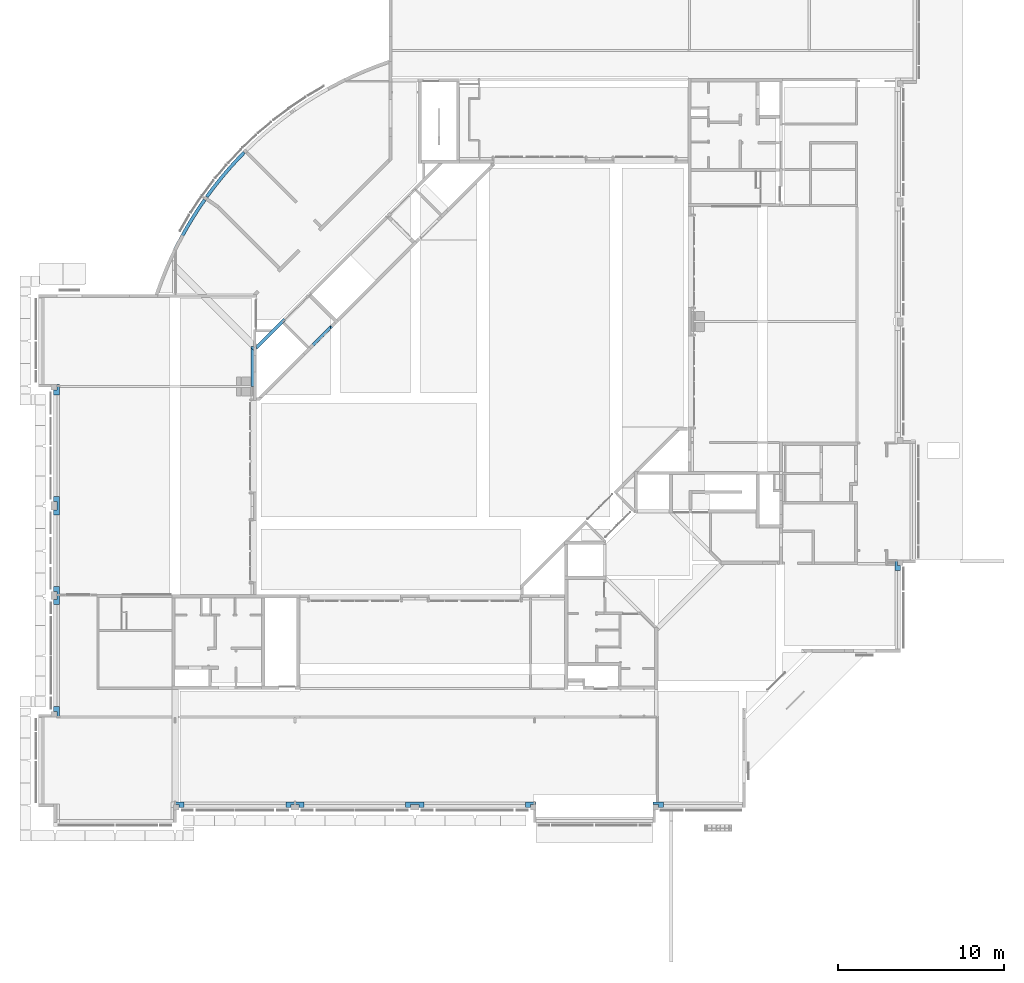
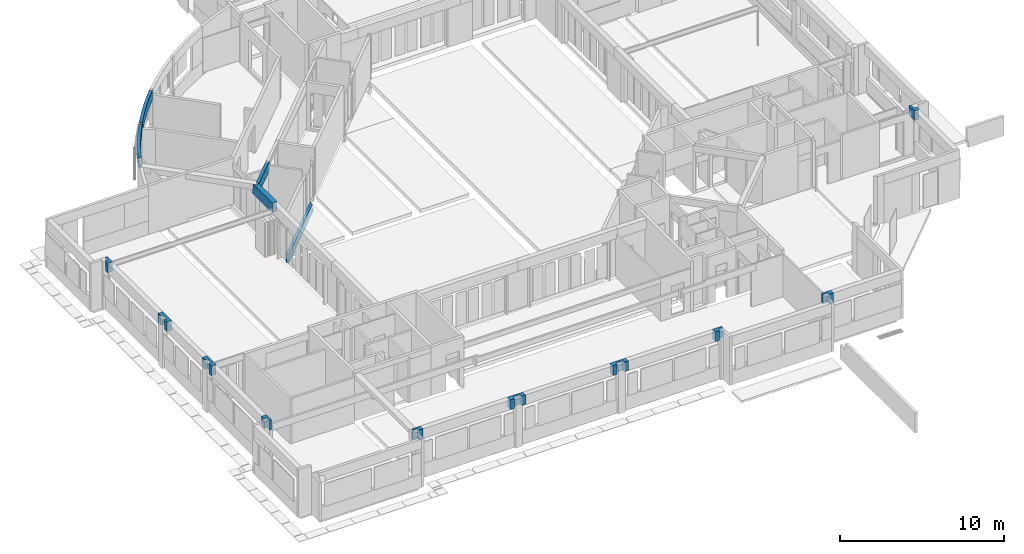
# One storey, part 24 of 30: 15 beams.
"""IFC4X3_ADD2 building model written with IfcOpenShell, lengths in millimetres."""

from ifc_helpers import new_model, si_unit, direction, frame, origin_with_axes, place, context, subcontext, project, spatial, polygons, source, transform, mapped, material, type_object, type_shapes, element, save


model = new_model("IFC4X3_ADD2")

# Units and contexts
model_context = context("Model", 3, precision=1e-05, world=origin_with_axes(), true_north=direction((0.0, 1.0)))
body_context = subcontext(model_context, "Body", "Model", "MODEL_VIEW")
ifc_project = project(units=[si_unit("LENGTHUNIT", "METRE", prefix="MILLI"), si_unit("AREAUNIT", "SQUARE_METRE"), si_unit("VOLUMEUNIT", "CUBIC_METRE"), si_unit("PLANEANGLEUNIT", "RADIAN"), si_unit("TIMEUNIT", "SECOND"), si_unit("MASSUNIT", "GRAM")], contexts=[model_context])

# Site, building, storey
site_placement = place(None, origin_with_axes())
site = spatial("IfcSite", under=ifc_project, at=site_placement, Name="Site", CompositionType="ELEMENT")
building_placement = place(site_placement, origin_with_axes())
building = spatial("IfcBuilding", under=site, at=building_placement, Name="IFC Building Story")
storey_placement = place(building_placement, origin_with_axes())
storey = spatial("IfcBuildingStorey", under=building, at=storey_placement, Name="000", Elevation=0.0)

# Beams
ifc_material = material(Name="BB_Beton_Bestaand")
beam_type_1 = type_object("IfcBeamType", Name="BB_XX_Betonbalk_ rechthoekig_ center-center_SFB_340 x 720 mm19", PredefinedType="NOTDEFINED")
shared_shape_1 = source(origin_with_axes(), body_context, "Body", "Tessellation", [
    polygons([(0.0, 2.16573425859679e-12, 720.0), (0.0, 2.16573425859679e-12, 0.0), (340.000000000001, 2.16573425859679e-12, 0.0), (340.000000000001, 2.16573425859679e-12, 720.0), (1.04902753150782e-12, 640.000000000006, 0.0), (1.04902753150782e-12, 640.000000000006, 720.0), (150.000000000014, 640.000000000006, 720.0), (150.000000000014, 640.000000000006, 0.0), (0.0, 484.999999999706, 0.0), (0.0, 344.999999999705, 0.0), (150.000000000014, 484.999999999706, 0.0), (150.000000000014, 344.999999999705, 0.0), (150.000000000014, 300.000000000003, 0.0), (340.000000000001, 300.000000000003, 0.0), (340.000000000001, 300.000000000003, 720.0), (150.000000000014, 300.000000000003, 720.0)], [[[1, 2, 3, 4]], [[5, 6, 7, 8]], [[10, 2, 1]], [[10, 1, 6]], [[6, 9, 10]], [[6, 5, 9]], [[9, 5, 8]], [[9, 8, 11]], [[11, 12, 10]], [[11, 10, 9]], [[13, 14, 3]], [[13, 3, 2]], [[2, 10, 13]], [[10, 12, 13]], [[4, 3, 14, 15]], [[16, 7, 6]], [[16, 6, 1]], [[1, 4, 15]], [[1, 15, 16]], [[13, 16, 15, 14]], [[11, 8, 7]], [[7, 16, 12]], [[7, 12, 11]], [[16, 13, 12]]]),
])
type_shapes(beam_type_1, [shared_shape_1])
beam_1_placement = place(storey_placement, frame((-245.0, 14155.0, 2680.0), z_axis=(0.0, 0.0, 1.0), x_axis=(1.0, 0.0, 0.0)))
element("IfcBeam", 1, at=beam_1_placement, inside=storey, type_object=beam_type_1, material=ifc_material, Name="BB_XX_Betonbalk, rechthoekig, center-center_SFB:340 x 720 mm", ObjectType="BB_XX_Betonbalk, rechthoekig, center-center_SFB:340 x 720 mm", PredefinedType="BEAM", context=body_context, shape_type="MappedRepresentation", body=[
    mapped(shared_shape_1, transform((0.0, 0.0, 0.0))),
])
beam_type_2 = type_object("IfcBeamType", Name="BB_XX_Betonbalk_ rechthoekig_ center-center_SFB_340 x 720 mm27", PredefinedType="NOTDEFINED")
shared_shape_2 = source(origin_with_axes(), body_context, "Body", "Tessellation", [
    polygons([(640.000000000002, 339.999999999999, 0.0), (640.000000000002, 339.999999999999, 320.000000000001), (640.000000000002, 339.999999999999, 720.0), (640.000000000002, 189.999999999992, 720.0), (640.000000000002, 189.999999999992, 0.0), (0.0, 0.0, 720.0), (0.0, 340.000000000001, 720.0), (0.0, 340.000000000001, 0.0), (0.0, 0.0, 0.0), (300.000000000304, 0.0, 0.0), (300.000000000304, 0.0, 720.0), (439.999999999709, 340.0, 0.0), (439.999999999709, 189.999999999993, 0.0), (300.000000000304, 189.999999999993, 0.0), (300.000000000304, 189.999999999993, 720.0)], [[[2, 3, 4]], [[2, 4, 5]], [[5, 1, 2]], [[6, 7, 8, 9]], [[6, 9, 10, 11]], [[12, 1, 5]], [[12, 5, 13]], [[14, 10, 9]], [[14, 9, 8]], [[8, 12, 14]], [[12, 13, 14]], [[12, 8, 2]], [[2, 1, 12]], [[8, 7, 3]], [[8, 3, 2]], [[15, 4, 3]], [[15, 3, 7]], [[7, 6, 11]], [[7, 11, 15]], [[13, 5, 4]], [[13, 4, 15]], [[15, 14, 13]], [[14, 15, 11, 10]]]),
])
type_shapes(beam_type_2, [shared_shape_2])
beam_2_placement = place(storey_placement, frame((-22445.0, -95.0, 2680.0), z_axis=(0.0, 0.0, 1.0), x_axis=(1.0, 0.0, 0.0)))
element("IfcBeam", 2, at=beam_2_placement, inside=storey, type_object=beam_type_2, material=ifc_material, Name="BB_XX_Betonbalk, rechthoekig, center-center_SFB:340 x 720 mm", ObjectType="BB_XX_Betonbalk, rechthoekig, center-center_SFB:340 x 720 mm", PredefinedType="BEAM", context=body_context, shape_type="MappedRepresentation", body=[
    mapped(shared_shape_2, transform((0.0, 0.0, 0.0))),
])
beam_type_3 = type_object("IfcBeamType", Name="BB_XX_Betonbalk_ rechthoekig_ center-center_SFB_340 x 720 mm29", PredefinedType="NOTDEFINED")
shared_shape_3 = source(origin_with_axes(), body_context, "Body", "Tessellation", [
    polygons([(1090.0, 0.0, 0.0), (1090.0, 0.0, -720.000000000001), (1090.0, 340.000000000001, -720.000000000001), (1090.0, 340.000000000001, 0.0), (4.33146851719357e-12, 3.51931817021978e-12, 0.0), (4.33146851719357e-12, 340.000000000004, 0.0), (4.33146851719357e-12, 340.000000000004, -720.000000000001), (4.33146851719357e-12, 3.51931817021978e-12, -720.000000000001), (790.000000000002, 0.0, 0.0), (790.000000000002, 0.0, -720.000000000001), (790.000000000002, 190.000000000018, -720.000000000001), (300.000000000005, 190.00000000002, -720.0), (300.000000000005, 2.53796983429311e-12, -720.0), (300.000000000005, 2.53796983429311e-12, 0.0), (300.000000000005, 190.00000000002, 0.0), (790.000000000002, 190.000000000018, 0.0)], [[[1, 2, 3, 4]], [[5, 6, 7, 8]], [[2, 1, 9, 10]], [[12, 13, 8]], [[12, 8, 7]], [[7, 3, 11]], [[7, 11, 12]], [[3, 2, 10]], [[3, 10, 11]], [[4, 3, 7, 6]], [[16, 9, 1]], [[16, 1, 4]], [[4, 6, 15]], [[4, 15, 16]], [[6, 5, 14]], [[6, 14, 15]], [[12, 15, 14, 13]], [[15, 12, 11, 16]], [[16, 11, 10, 9]], [[5, 8, 13, 14]]]),
])
type_shapes(beam_type_3, [shared_shape_3])
beam_3_placement = place(storey_placement, frame((-29645.0, -95.0, 3400.0), z_axis=(0.0, 0.0, 1.0), x_axis=(1.0, 0.0, 0.0)))
element("IfcBeam", 3, at=beam_3_placement, inside=storey, type_object=beam_type_3, material=ifc_material, Name="BB_XX_Betonbalk, rechthoekig, center-center_SFB:340 x 720 mm", ObjectType="BB_XX_Betonbalk, rechthoekig, center-center_SFB:340 x 720 mm", PredefinedType="BEAM", context=body_context, shape_type="MappedRepresentation", body=[
    mapped(shared_shape_3, transform((0.0, 0.0, 0.0))),
])
beam_type_4 = type_object("IfcBeamType", Name="BB_XX_Betonbalk_ rechthoekig_ center-center_SFB_340 x 720 mm31", PredefinedType="NOTDEFINED")
shared_shape_4 = source(origin_with_axes(), body_context, "Body", "Tessellation", [
    polygons([(339.999999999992, 0.0, 0.0), (339.999999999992, 0.0, 720.0), (190.000000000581, 0.0, 720.0), (190.000000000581, 0.0, 0.0), (-8.66293703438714e-12, 640.000000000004, 720.0), (339.999999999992, 640.000000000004, 720.0), (339.999999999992, 640.000000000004, 0.0), (-8.66293703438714e-12, 640.000000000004, 0.0), (-8.66293703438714e-12, 340.000000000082, 0.0), (-8.66293703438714e-12, 340.000000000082, 720.0), (190.000000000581, 340.000000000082, 0.0), (190.000000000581, 340.000000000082, 720.0)], [[[1, 2, 3, 4]], [[5, 6, 7, 8]], [[5, 8, 9, 10]], [[11, 9, 8]], [[11, 8, 7]], [[7, 1, 4]], [[7, 4, 11]], [[2, 1, 7, 6]], [[12, 3, 2]], [[12, 2, 6]], [[6, 5, 10]], [[6, 10, 12]], [[12, 11, 4, 3]], [[11, 12, 10, 9]]]),
])
type_shapes(beam_type_4, [shared_shape_4])
beam_4_placement = place(storey_placement, frame((-50795.0, 5335.0, 2680.0), z_axis=(0.0, 0.0, 1.0), x_axis=(1.0, 0.0, 0.0)))
element("IfcBeam", 4, at=beam_4_placement, inside=storey, type_object=beam_type_4, material=ifc_material, Name="BB_XX_Betonbalk, rechthoekig, center-center_SFB:340 x 720 mm", ObjectType="BB_XX_Betonbalk, rechthoekig, center-center_SFB:340 x 720 mm", PredefinedType="BEAM", context=body_context, shape_type="MappedRepresentation", body=[
    mapped(shared_shape_4, transform((0.0, 0.0, 0.0))),
])
beam_type_5 = type_object("IfcBeamType", Name="BB_XX_Betonbalk_ rechthoekig_ center-center_SFB_340 x 720 mm37", PredefinedType="NOTDEFINED")
shared_shape_5 = source(origin_with_axes(), body_context, "Body", "Tessellation", [
    polygons([(340.000000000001, 2405.0, 2.16573425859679e-12), (290.000000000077, 2405.0, 2.16573425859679e-12), (254.163056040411, 2405.0, 2.16573425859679e-12), (150.000000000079, 2405.0, 2.16573425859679e-12), (4.33146851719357e-12, 2405.0, 2.16573425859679e-12), (4.33146851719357e-12, 2405.0, 320.000000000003), (150.000000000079, 2405.0, 320.000000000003), (290.000000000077, 2405.0, 320.000000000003), (340.000000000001, 2405.0, 320.000000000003), (340.000000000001, 0.0, 720.0), (4.33146851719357e-12, 0.0, 720.0), (4.33146851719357e-12, 0.0, 0.0), (340.000000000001, 0.0, 0.0), (340.000000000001, 2245.18723239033, 2.16573425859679e-12), (340.000000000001, 2305.49463840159, 320.000000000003), (340.000000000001, 2305.49463840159, 720.000000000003), (340.000000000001, 2245.18723239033, 720.000000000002), (8.66293703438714e-12, 2322.13208940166, 720.000000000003), (4.33146851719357e-12, 2322.13208940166, 320.000000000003), (178.318725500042, 2143.81336390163, 720.000000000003), (178.318725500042, 2143.81336390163, 320.000000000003)], [[[4, 5, 6]], [[4, 6, 7]], [[7, 8, 3]], [[7, 3, 4]], [[8, 2, 3]], [[8, 9, 1]], [[8, 1, 2]], [[10, 11, 12, 13]], [[15, 16, 17]], [[15, 17, 14]], [[14, 1, 9]], [[14, 9, 15]], [[17, 10, 13]], [[17, 13, 14]], [[14, 13, 2]], [[2, 1, 14]], [[13, 3, 2]], [[13, 12, 4]], [[13, 4, 3]], [[12, 5, 4]], [[19, 6, 5]], [[19, 5, 12]], [[12, 11, 18]], [[12, 18, 19]], [[17, 16, 20]], [[20, 18, 11]], [[20, 11, 10]], [[10, 17, 20]], [[21, 20, 16, 15]], [[20, 21, 19, 18]], [[7, 6, 19]], [[19, 21, 15]], [[19, 15, 8]], [[19, 8, 7]], [[15, 9, 8]]]),
])
type_shapes(beam_type_5, [shared_shape_5])
beam_5_placement = place(storey_placement, frame((-38945.0, 25200.0, 2680.0), z_axis=(0.0, 0.0, 1.0), x_axis=(1.0, 0.0, 0.0)))
element("IfcBeam", 5, at=beam_5_placement, inside=storey, type_object=beam_type_5, material=ifc_material, Name="BB_XX_Betonbalk, rechthoekig, center-center_SFB:340 x 720 mm", ObjectType="BB_XX_Betonbalk, rechthoekig, center-center_SFB:340 x 720 mm", PredefinedType="BEAM", context=body_context, shape_type="MappedRepresentation", body=[
    mapped(shared_shape_5, transform((0.0, 0.0, 0.0))),
])
beam_type_6 = type_object("IfcBeamType", Name="BB_XX_Betonbalk_ rechthoekig_ center-center_SFB_340 x 720 mm39", PredefinedType="NOTDEFINED")
shared_shape_6 = source(origin_with_axes(), body_context, "Body", "Tessellation", [
    polygons([(-2.16573425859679e-12, 340.000000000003, 720.0), (0.0, 340.000000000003, 460.000000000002), (-2.16573425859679e-12, 340.000000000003, 0.0), (-2.16573425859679e-12, 189.999999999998, 0.0), (-2.16573425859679e-12, 189.999999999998, 720.0), (640.000000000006, 340.000000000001, 720.0), (640.000000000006, 0.0, 720.0), (640.000000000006, 0.0, 0.0), (640.000000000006, 340.000000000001, 0.0), (200.000000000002, 340.000000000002, 0.0), (340.000000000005, 0.0, 0.0), (340.000000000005, 189.999999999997, 0.0), (200.000000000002, 189.999999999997, 0.0), (340.000000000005, 0.0, 720.0), (340.000000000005, 189.999999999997, 720.0)], [[[2, 3, 4]], [[2, 4, 5]], [[5, 1, 2]], [[6, 7, 8, 9]], [[2, 1, 6]], [[10, 3, 2]], [[2, 6, 9]], [[2, 9, 10]], [[13, 4, 3]], [[13, 3, 10]], [[10, 12, 13]], [[12, 10, 9]], [[9, 8, 11]], [[9, 11, 12]], [[8, 7, 14, 11]], [[15, 14, 7]], [[15, 7, 6]], [[6, 1, 5]], [[6, 5, 15]], [[15, 12, 11, 14]], [[13, 12, 15]], [[15, 5, 4]], [[15, 4, 13]]]),
])
type_shapes(beam_type_6, [shared_shape_6])
beam_6_placement = place(storey_placement, frame((-14795.0, -95.0, 2680.0), z_axis=(0.0, 0.0, 1.0), x_axis=(1.0, 0.0, 0.0)))
element("IfcBeam", 6, at=beam_6_placement, inside=storey, type_object=beam_type_6, material=ifc_material, Name="BB_XX_Betonbalk, rechthoekig, center-center_SFB:340 x 720 mm", ObjectType="BB_XX_Betonbalk, rechthoekig, center-center_SFB:340 x 720 mm", PredefinedType="BEAM", context=body_context, shape_type="MappedRepresentation", body=[
    mapped(shared_shape_6, transform((0.0, 0.0, 0.0))),
])
beam_type_7 = type_object("IfcBeamType", Name="BB_XX_Betonbalk_ rechthoekig_ center-center_SFB_340 x 720 mm45", PredefinedType="NOTDEFINED")
shared_shape_7 = source(origin_with_axes(), body_context, "Body", "Tessellation", [
    polygons([(0.0, 2.16573425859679e-12, 720.0), (0.0, 2.16573425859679e-12, 0.0), (340.000000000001, 2.16573425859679e-12, 0.0), (340.000000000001, 2.16573425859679e-12, 720.0), (0.0, 1090.0, 720.0), (340.000000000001, 1090.0, 720.0), (340.000000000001, 1090.0, 0.0), (0.0, 1090.0, 0.0), (0.0, 300.000000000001, 720.0), (0.0, 300.000000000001, 0.0), (190.000000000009, 300.000000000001, 0.0), (190.000000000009, 789.999999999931, 0.0), (0.0, 789.999999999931, 0.0), (0.0, 789.999999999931, 720.0), (190.000000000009, 789.999999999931, 720.0), (190.000000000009, 300.000000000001, 720.0)], [[[1, 2, 3, 4]], [[5, 6, 7, 8]], [[2, 1, 9, 10]], [[12, 13, 8]], [[12, 8, 7]], [[7, 3, 11]], [[7, 11, 12]], [[3, 2, 10]], [[3, 10, 11]], [[4, 3, 7, 6]], [[16, 9, 1]], [[16, 1, 4]], [[4, 6, 15]], [[4, 15, 16]], [[6, 5, 14]], [[6, 14, 15]], [[16, 11, 10, 9]], [[11, 16, 15, 12]], [[12, 15, 14, 13]], [[5, 8, 13, 14]]]),
])
type_shapes(beam_type_7, [shared_shape_7])
beam_7_placement = place(storey_placement, frame((-50795.0, 12085.0, 2680.0), z_axis=(0.0, 0.0, 1.0), x_axis=(1.0, 0.0, 0.0)))
element("IfcBeam", 7, at=beam_7_placement, inside=storey, type_object=beam_type_7, material=ifc_material, Name="BB_XX_Betonbalk, rechthoekig, center-center_SFB:340 x 720 mm", ObjectType="BB_XX_Betonbalk, rechthoekig, center-center_SFB:340 x 720 mm", PredefinedType="BEAM", context=body_context, shape_type="MappedRepresentation", body=[
    mapped(shared_shape_7, transform((0.0, 0.0, 0.0))),
])
beam_type_8 = type_object("IfcBeamType", Name="BB_XX_Betonbalk_ rechthoekig_ center-center_SFB_340 x 720 mm51", PredefinedType="NOTDEFINED")
shared_shape_8 = source(origin_with_axes(), body_context, "Body", "Tessellation", [
    polygons([(339.999999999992, 1090.0, -1.08286712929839e-12), (339.999999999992, 1090.0, -720.000000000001), (-8.66293703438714e-12, 1090.0, -720.000000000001), (-8.66293703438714e-12, 1090.0, -1.08286712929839e-12), (339.999999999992, 4.33146851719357e-12, 0.0), (-8.66293703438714e-12, 4.33146851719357e-12, 0.0), (-8.66293703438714e-12, 4.33146851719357e-12, -720.0), (339.999999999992, 4.33146851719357e-12, -720.0), (-8.66293703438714e-12, 300.000000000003, -720.0), (189.999999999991, 300.000000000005, -720.0), (189.999999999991, 790.000000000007, -720.000000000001), (-8.66293703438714e-12, 790.000000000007, -720.000000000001), (-8.66293703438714e-12, 790.000000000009, -1.08286712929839e-12), (189.999999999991, 790.000000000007, -1.08286712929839e-12), (189.999999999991, 300.000000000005, 0.0), (-8.66293703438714e-12, 300.000000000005, 0.0)], [[[1, 2, 3, 4]], [[5, 6, 7, 8]], [[2, 1, 5, 8]], [[11, 12, 3]], [[11, 3, 2]], [[2, 8, 10]], [[2, 10, 11]], [[8, 7, 9]], [[8, 9, 10]], [[4, 3, 12, 13]], [[15, 16, 6]], [[15, 6, 5]], [[5, 1, 14]], [[5, 14, 15]], [[1, 4, 13]], [[1, 13, 14]], [[15, 10, 9, 16]], [[10, 15, 14, 11]], [[11, 14, 13, 12]], [[7, 6, 16, 9]]]),
])
type_shapes(beam_type_8, [shared_shape_8])
beam_8_placement = place(storey_placement, frame((-50795.0, 17485.0, 3400.0), z_axis=(0.0, 0.0, 1.0), x_axis=(1.0, 0.0, 0.0)))
element("IfcBeam", 8, at=beam_8_placement, inside=storey, type_object=beam_type_8, material=ifc_material, Name="BB_XX_Betonbalk, rechthoekig, center-center_SFB:340 x 720 mm", ObjectType="BB_XX_Betonbalk, rechthoekig, center-center_SFB:340 x 720 mm", PredefinedType="BEAM", context=body_context, shape_type="MappedRepresentation", body=[
    mapped(shared_shape_8, transform((0.0, 0.0, 0.0))),
])
beam_type_9 = type_object("IfcBeamType", Name="BB_XX_Betonbalk_ rechthoekig_ center-center_SFB_340 x 720 mm53", PredefinedType="NOTDEFINED")
shared_shape_9 = source(origin_with_axes(), body_context, "Body", "Tessellation", [
    polygons([(340.000000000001, 640.000000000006, 720.0), (340.000000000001, 640.000000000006, 0.0), (189.999999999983, 640.000000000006, 0.0), (189.999999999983, 640.000000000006, 720.0), (340.000000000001, 4.33146851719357e-12, 720.0), (0.0, 4.33146851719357e-12, 720.0), (0.0, 4.33146851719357e-12, 0.0), (340.000000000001, 4.33146851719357e-12, 0.0), (0.0, 300.000000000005, 0.0), (189.999999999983, 300.000000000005, 0.0), (0.0, 300.000000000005, 720.0), (189.999999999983, 300.000000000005, 720.0)], [[[1, 2, 3, 4]], [[5, 6, 7, 8]], [[2, 1, 5, 8]], [[10, 3, 2]], [[10, 2, 8]], [[8, 7, 9]], [[8, 9, 10]], [[7, 6, 11, 9]], [[12, 11, 6]], [[12, 6, 5]], [[5, 1, 4]], [[5, 4, 12]], [[12, 10, 9, 11]], [[10, 12, 4, 3]]]),
])
type_shapes(beam_type_9, [shared_shape_9])
beam_9_placement = place(storey_placement, frame((-50795.0, 24685.0, 2680.0), z_axis=(0.0, 0.0, 1.0), x_axis=(1.0, 0.0, 0.0)))
element("IfcBeam", 9, at=beam_9_placement, inside=storey, type_object=beam_type_9, material=ifc_material, Name="BB_XX_Betonbalk, rechthoekig, center-center_SFB:340 x 720 mm", ObjectType="BB_XX_Betonbalk, rechthoekig, center-center_SFB:340 x 720 mm", PredefinedType="BEAM", context=body_context, shape_type="MappedRepresentation", body=[
    mapped(shared_shape_9, transform((0.0, 0.0, 0.0))),
])
beam_type_10 = type_object("IfcBeamType", Name="BB_XX_Betonbalk_ rechthoekig_ center-center_SFB_200 x 720 mm", PredefinedType="NOTDEFINED")
shared_shape_10 = source(origin_with_axes(), body_context, "Body", "Tessellation", [
    polygons([(1.59527223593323, 118.179376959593, 720.000000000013), (1.59527223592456, 118.179376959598, 1.29944055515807e-11), (164.101107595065, 1.59527223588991, 1.19115384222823e-11), (164.101107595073, 1.59527223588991, 720.000000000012), (2405.16769576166, 2657.85652498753, 0.0), (2262.88975628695, 2798.41607798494, 1.08286712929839e-12), (2262.88975628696, 2798.41607798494, 720.000000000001), (2405.16769576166, 2657.85652498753, 720.0), (1914.48391916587, 2437.74912057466, 3.24860138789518e-12), (1914.48391916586, 2437.74912057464, 720.000000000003), (1574.25450095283, 2069.35907661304, 4.87290208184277e-12), (1574.25450095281, 2069.35907661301, 720.000000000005), (1242.3726530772, 1693.43126365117, 6.49720277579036e-12), (1242.37265307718, 1693.43126365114, 720.000000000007), (919.005327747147, 1310.15479109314, 8.66293703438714e-12), (919.005327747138, 1310.15479109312, 720.000000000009), (604.315193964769, 919.722465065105, 1.02872377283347e-11), (604.315193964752, 919.722465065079, 720.00000000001), (298.460555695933, 522.330691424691, 1.19115384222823e-11), (298.460555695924, 522.330691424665, 720.000000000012), (2059.87844387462, 2300.41583187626, 1.62430069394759e-12), (1722.69247059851, 1935.32113732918, 3.79003495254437e-12), (1393.77939636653, 1562.75610118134, 5.41433564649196e-12), (1073.30467995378, 1182.90814120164, 7.03863634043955e-12), (761.429535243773, 795.968338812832, 8.66293703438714e-12), (458.310850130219, 402.131342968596, 1.02872377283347e-11), (2059.87844387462, 2300.41583187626, 720.000000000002), (1722.69247059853, 1935.32113732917, 720.000000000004), (1393.77939636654, 1562.75610118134, 720.000000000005), (1073.30467995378, 1182.90814120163, 720.000000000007), (761.429535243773, 795.968338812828, 720.000000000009), (458.310850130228, 402.131342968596, 720.00000000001)], [[[1, 2, 3, 4]], [[5, 6, 7, 8]], [[7, 6, 9, 10]], [[10, 9, 11, 12]], [[12, 11, 13, 14]], [[13, 15, 16, 14]], [[16, 15, 17, 18]], [[18, 17, 19, 20]], [[20, 19, 2, 1]], [[9, 6, 5]], [[9, 5, 21]], [[21, 22, 11]], [[21, 11, 9]], [[22, 23, 13]], [[22, 13, 11]], [[23, 24, 15]], [[23, 15, 13]], [[24, 25, 17]], [[24, 17, 15]], [[25, 26, 19]], [[25, 19, 17]], [[26, 3, 2]], [[26, 2, 19]], [[21, 5, 8, 27]], [[22, 21, 27, 28]], [[23, 22, 28, 29]], [[29, 30, 24, 23]], [[25, 24, 30, 31]], [[26, 25, 31, 32]], [[3, 26, 32, 4]], [[27, 8, 7]], [[27, 7, 10]], [[10, 12, 28]], [[10, 28, 27]], [[12, 14, 29]], [[12, 29, 28]], [[14, 16, 30]], [[14, 30, 29]], [[16, 18, 31]], [[16, 31, 30]], [[18, 20, 32]], [[18, 32, 31]], [[20, 1, 4]], [[20, 4, 32]]]),
])
type_shapes(beam_type_10, [shared_shape_10])
beam_10_placement = place(storey_placement, frame((-41685.1152858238, 36533.1146954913, 2680.0), z_axis=(0.0, 0.0, 1.0), x_axis=(1.0, 0.0, 0.0)))
element("IfcBeam", 10, at=beam_10_placement, inside=storey, type_object=beam_type_10, material=ifc_material, Name="BB_XX_Betonbalk, rechthoekig, center-center_SFB:200 x 720 mm", ObjectType="BB_XX_Betonbalk, rechthoekig, center-center_SFB:200 x 720 mm", PredefinedType="BEAM", context=body_context, shape_type="MappedRepresentation", body=[
    mapped(shared_shape_10, transform((0.0, 0.0, 0.0))),
])
beam_type_11 = type_object("IfcBeamType", Name="BB_XX_Betonbalk_ rechthoekig_ center-center_SFB_200 x 720 mm5", PredefinedType="NOTDEFINED")
shared_shape_11 = source(origin_with_axes(), body_context, "Body", "Tessellation", [
    polygons([(1834.14340422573, 1729.70995981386, 0.0), (1834.14340422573, 1729.70995981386, -720.0), (1692.72204798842, 1871.13131605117, -720.0), (1692.72204798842, 1871.13131605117, 0.0), (104.433444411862, 0.0, -720.0), (104.433444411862, 0.0, 0.0), (85.8369439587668, 18.5965004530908, 0.0), (85.8369439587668, 18.5965004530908, -720.0), (85.8369439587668, 178.409268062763, -720.0), (4.33146851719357e-12, 178.409268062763, -720.0), (4.33146851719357e-12, 178.409268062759, 0.0), (879.000000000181, 1057.40926806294, 0.0), (1019.00000000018, 1197.40926806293, 0.0), (85.8369439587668, 178.409268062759, 0.0), (85.8369439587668, 78.9039064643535, 0.0), (85.8369439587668, 178.409268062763, -400.000000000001)], [[[1, 2, 3, 4]], [[5, 6, 7, 8]], [[2, 1, 6, 5]], [[9, 10, 3]], [[3, 2, 5]], [[3, 5, 8]], [[3, 8, 9]], [[13, 4, 3]], [[3, 12, 13]], [[3, 10, 11]], [[3, 11, 12]], [[15, 7, 6]], [[6, 1, 12]], [[6, 12, 14]], [[6, 14, 15]], [[12, 11, 14]], [[1, 13, 12]], [[1, 4, 13]], [[16, 14, 11]], [[16, 11, 10]], [[10, 9, 16]], [[16, 9, 8]], [[15, 14, 16]], [[16, 8, 7]], [[16, 7, 15]]]),
])
type_shapes(beam_type_11, [shared_shape_11])
beam_11_placement = place(storey_placement, frame((-38690.8369439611, 27426.5907319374, 3400.0), z_axis=(0.0, 0.0, 1.0), x_axis=(1.0, 0.0, 0.0)))
element("IfcBeam", 11, at=beam_11_placement, inside=storey, type_object=beam_type_11, material=ifc_material, Name="BB_XX_Betonbalk, rechthoekig, center-center_SFB:200 x 720 mm", ObjectType="BB_XX_Betonbalk, rechthoekig, center-center_SFB:200 x 720 mm", PredefinedType="BEAM", context=body_context, shape_type="MappedRepresentation", body=[
    mapped(shared_shape_11, transform((0.0, 0.0, 0.0))),
])
beam_type_12 = type_object("IfcBeamType", Name="BB_XX_Betonbalk_ rechthoekig_ center-center_SFB_200 x 720 mm7", PredefinedType="NOTDEFINED")
shared_shape_12 = source(origin_with_axes(), body_context, "Body", "Tessellation", [
    polygons([(1.59527223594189, 89.4593780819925, 720.0), (1.59527223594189, 89.4593780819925, 0.0), (181.261348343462, 1.59527223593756, 0.0), (181.261348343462, 1.59527223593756, 720.0), (1954.40687810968, 2999.69805954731, 0.0), (1790.86030681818, 3114.81764527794, 0.0), (1790.86030681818, 3114.81764527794, 720.0), (1954.40687810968, 2999.69805954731, 720.000000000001), (1506.21424545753, 2700.54469900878, 0.0), (1506.21424545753, 2700.5446990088, 720.000000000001), (1231.0202508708, 2279.93357266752, 0.0), (1231.02025087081, 2279.93357266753, 720.000000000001), (965.41939624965, 1853.19988489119, 0.0), (965.419396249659, 1853.19988489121, 720.000000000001), (709.547837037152, 1420.56239293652, 0.0), (709.547837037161, 1420.56239293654, 720.000000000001), (463.536741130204, 982.242880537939, 0.0), (463.536741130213, 982.242880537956, 720.000000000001), (227.51222163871, 538.466044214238, 0.0), (227.51222163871, 538.466044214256, 720.000000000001), (1672.3251956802, 2589.15730198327, 0.0), (1399.61042626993, 2172.33546506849, 0.0), (1136.40237214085, 1749.44622492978, 0.0), (882.835962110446, 1320.70636803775, 0.0), (639.041182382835, 886.33568007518, 0.0), (405.143009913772, 446.556833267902, 0.0), (1672.3251956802, 2589.15730198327, 720.000000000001), (1399.61042626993, 2172.33546506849, 720.000000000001), (1136.40237214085, 1749.44622492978, 720.000000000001), (882.835962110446, 1320.70636803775, 720.000000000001), (639.041182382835, 886.33568007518, 720.000000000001), (405.143009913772, 446.556833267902, 720.000000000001)], [[[1, 2, 3, 4]], [[5, 6, 7, 8]], [[7, 6, 9, 10]], [[10, 9, 11, 12]], [[12, 11, 13, 14]], [[13, 15, 16, 14]], [[16, 15, 17, 18]], [[18, 17, 19, 20]], [[20, 19, 2, 1]], [[9, 6, 5]], [[9, 5, 21]], [[21, 22, 11]], [[21, 11, 9]], [[22, 23, 13]], [[22, 13, 11]], [[23, 24, 15]], [[23, 15, 13]], [[24, 25, 17]], [[24, 17, 15]], [[25, 26, 19]], [[25, 19, 17]], [[26, 3, 2]], [[26, 2, 19]], [[21, 5, 8, 27]], [[22, 21, 27, 28]], [[23, 22, 28, 29]], [[29, 30, 24, 23]], [[25, 24, 30, 31]], [[26, 25, 31, 32]], [[3, 26, 32, 4]], [[27, 8, 7]], [[27, 7, 10]], [[10, 12, 28]], [[10, 28, 27]], [[12, 14, 29]], [[12, 29, 28]], [[14, 16, 30]], [[14, 30, 29]], [[16, 18, 31]], [[16, 31, 30]], [[18, 20, 32]], [[18, 32, 31]], [[20, 1, 4]], [[20, 4, 32]]]),
])
type_shapes(beam_type_12, [shared_shape_12])
beam_12_placement = place(storey_placement, frame((-43599.8884836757, 33358.0971909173, 2680.0), z_axis=(0.0, 0.0, 1.0), x_axis=(1.0, 0.0, 0.0)))
element("IfcBeam", 12, at=beam_12_placement, inside=storey, type_object=beam_type_12, material=ifc_material, Name="BB_XX_Betonbalk, rechthoekig, center-center_SFB:200 x 720 mm", ObjectType="BB_XX_Betonbalk, rechthoekig, center-center_SFB:200 x 720 mm", PredefinedType="BEAM", context=body_context, shape_type="MappedRepresentation", body=[
    mapped(shared_shape_12, transform((0.0, 0.0, 0.0))),
])
beam_type_13 = type_object("IfcBeamType", Name="BB_XX_Betonbalk_ rechthoekig_ center-center_SFB_340 x 720 mm75", PredefinedType="NOTDEFINED")
shared_shape_13 = source(origin_with_axes(), body_context, "Body", "Tessellation", [
    polygons([(-4.33146851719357e-12, 340.000000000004, 720.0), (-4.33146851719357e-12, 340.000000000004, 0.0), (-4.33146851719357e-12, 3.51931817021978e-12, 0.0), (-4.33146851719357e-12, 3.51931817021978e-12, 720.0), (1090.00000000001, 340.000000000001, 720.0), (1090.00000000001, 0.0, 720.0), (1090.00000000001, 0.0, 0.0), (1090.00000000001, 340.000000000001, 0.0), (789.999999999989, 0.0, 0.0), (789.999999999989, 190.000000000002, 0.0), (300.00000000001, 190.000000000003, 0.0), (300.00000000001, 2.5548896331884e-12, 0.0), (300.00000000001, 2.5548896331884e-12, 720.0), (300.00000000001, 190.000000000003, 720.0), (789.999999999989, 190.000000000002, 720.0), (789.999999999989, 0.0, 720.0)], [[[1, 2, 3, 4]], [[5, 6, 7, 8]], [[2, 1, 5, 8]], [[11, 12, 3]], [[11, 3, 2]], [[2, 8, 10]], [[2, 10, 11]], [[8, 7, 9]], [[8, 9, 10]], [[4, 3, 12, 13]], [[15, 16, 6]], [[15, 6, 5]], [[5, 1, 14]], [[5, 14, 15]], [[1, 4, 13]], [[1, 13, 14]], [[11, 14, 13, 12]], [[14, 11, 10, 15]], [[15, 10, 9, 16]], [[7, 6, 16, 9]]]),
])
type_shapes(beam_type_13, [shared_shape_13])
beam_13_placement = place(storey_placement, frame((-36845.0, -95.0, 2680.0), z_axis=(0.0, 0.0, 1.0), x_axis=(1.0, 0.0, 0.0)))
element("IfcBeam", 13, at=beam_13_placement, inside=storey, type_object=beam_type_13, material=ifc_material, Name="BB_XX_Betonbalk, rechthoekig, center-center_SFB:340 x 720 mm", ObjectType="BB_XX_Betonbalk, rechthoekig, center-center_SFB:340 x 720 mm", PredefinedType="BEAM", context=body_context, shape_type="MappedRepresentation", body=[
    mapped(shared_shape_13, transform((0.0, 0.0, 0.0))),
])
beam_type_14 = type_object("IfcBeamType", Name="BB_XX_Betonbalk_ rechthoekig_ center-center_SFB_340 x 720 mm77", PredefinedType="NOTDEFINED")
shared_shape_14 = source(origin_with_axes(), body_context, "Body", "Tessellation", [
    polygons([(627.300000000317, 0.0, 720.0), (627.300000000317, 0.0, 0.0), (627.300000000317, 340.000000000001, 0.0), (627.300000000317, 340.000000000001, 720.0), (8.66293703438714e-12, 340.000000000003, 720.0), (8.66293703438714e-12, 340.000000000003, 0.0), (8.66293703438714e-12, 190.000000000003, 0.0), (8.66293703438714e-12, 190.000000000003, 720.0), (327.300000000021, 1.16746612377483e-12, 720.0), (327.300000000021, 1.16746612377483e-12, 0.0), (327.300000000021, 190.000000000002, 0.0), (327.300000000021, 190.000000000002, 720.0)], [[[1, 2, 3, 4]], [[5, 6, 7, 8]], [[2, 1, 9, 10]], [[11, 7, 6]], [[11, 6, 3]], [[3, 2, 10]], [[3, 10, 11]], [[4, 3, 6, 5]], [[12, 9, 1]], [[12, 1, 4]], [[4, 5, 8]], [[4, 8, 12]], [[12, 11, 10, 9]], [[11, 12, 8, 7]]]),
])
type_shapes(beam_type_14, [shared_shape_14])
beam_14_placement = place(storey_placement, frame((-43582.3000000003, -95.0, 2680.0), z_axis=(0.0, 0.0, 1.0), x_axis=(1.0, 0.0, 0.0)))
element("IfcBeam", 14, at=beam_14_placement, inside=storey, type_object=beam_type_14, material=ifc_material, Name="BB_XX_Betonbalk, rechthoekig, center-center_SFB:340 x 720 mm", ObjectType="BB_XX_Betonbalk, rechthoekig, center-center_SFB:340 x 720 mm", PredefinedType="BEAM", context=body_context, shape_type="MappedRepresentation", body=[
    mapped(shared_shape_14, transform((0.0, 0.0, 0.0))),
])
beam_type_15 = type_object("IfcBeamType", Name="BB_XX_Betonbalk_ rechthoekig_ center-center_SFB_190 x 650 mm", PredefinedType="NOTDEFINED")
shared_shape_15 = source(origin_with_axes(), body_context, "Body", "Tessellation", [
    polygons([(4202.18217931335, 4067.83189088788, 0.0), (4067.83189088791, 4202.18217931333, 0.0), (4067.83189088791, 4202.18217931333, 650.0), (4068.96597154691, 4201.04809865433, 650.0), (4068.96597154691, 4201.04809865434, 150.0), (4202.18217931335, 4067.83189088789, 150.0), (268.700576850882, 134.350288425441, 650.0), (268.700576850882, 134.350288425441, 150.0), (134.350288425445, 0.0, 150.0), (134.350288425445, 4.33146851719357e-12, 0.0), (2550.23364800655, 2415.88335958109, 0.0), (4068.96597154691, 3934.61568312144, 150.0), (4068.96597154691, 3934.61568312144, 650.0), (8.66293703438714e-12, 134.35028842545, 0.0), (2415.88335958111, 2550.23364800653, 0.0), (8.66293703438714e-12, 134.35028842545, 150.0), (4.33146851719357e-12, 134.350288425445, 650.0)], [[[5, 6, 1]], [[5, 1, 2]], [[5, 2, 3]], [[3, 4, 5]], [[8, 9, 10]], [[12, 13, 11]], [[11, 1, 12]], [[1, 6, 12]], [[8, 10, 11]], [[11, 13, 7]], [[11, 7, 8]], [[11, 10, 14]], [[11, 14, 15]], [[15, 2, 1]], [[15, 1, 11]], [[16, 17, 3]], [[16, 3, 15]], [[15, 14, 16]], [[3, 2, 15]], [[3, 17, 7]], [[3, 7, 13]], [[3, 13, 4]], [[8, 16, 9]], [[16, 8, 7, 17]], [[12, 5, 4, 13]], [[5, 12, 6]], [[10, 9, 16, 14]]]),
])
type_shapes(beam_type_15, [shared_shape_15])
beam_15_placement = place(storey_placement, frame((-38218.9659715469, 24675.6497115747, -1050.0), z_axis=(0.0, 0.0, 1.0), x_axis=(1.0, 0.0, 0.0)))
element("IfcBeam", 15, at=beam_15_placement, inside=storey, type_object=beam_type_15, material=ifc_material, Name="BB_XX_Betonbalk, rechthoekig, center-center_SFB:190 x 650 mm", ObjectType="BB_XX_Betonbalk, rechthoekig, center-center_SFB:190 x 650 mm", PredefinedType="BEAM", context=body_context, shape_type="MappedRepresentation", body=[
    mapped(shared_shape_15, transform((0.0, 0.0, 0.0))),
])

save(model, "model.ifc")
